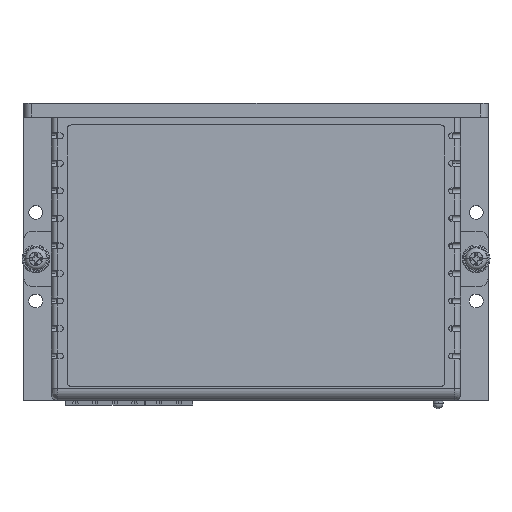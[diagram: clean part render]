
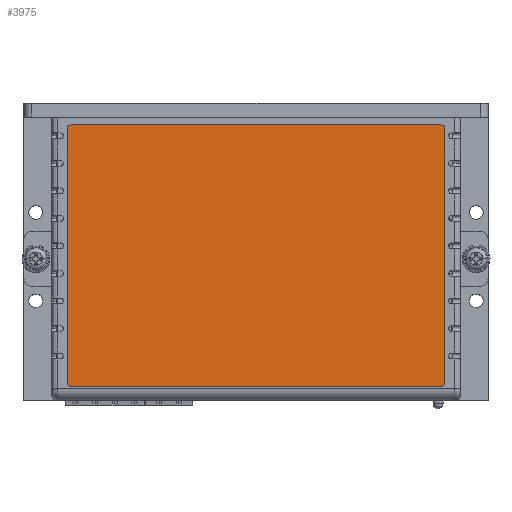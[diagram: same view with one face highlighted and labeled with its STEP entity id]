
A CAD part, top view. The second image highlights one B-rep face of the part: STEP entity #3975.
In plain terms, the highlighted planar face has unit normal (0, 0, 1).
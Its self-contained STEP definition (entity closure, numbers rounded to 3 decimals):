
#662 = ORIENTED_EDGE ( 'NONE', *, *, #26018, .F. ) ;
#3214 = CARTESIAN_POINT ( 'NONE',  ( 48., 4.5, 21.8 ) ) ;
#3631 = AXIS2_PLACEMENT_3D ( 'NONE', #92336, #43779, #100467 ) ;
#3975 = ADVANCED_FACE ( 'NONE', ( #76252 ), #59537, .T. ) ;
#10839 = DIRECTION ( 'NONE',  ( 0., 1., 0. ) ) ;
#10998 = VECTOR ( 'NONE', #93904, 1000. ) ;
#15059 = EDGE_CURVE ( 'NONE', #52306, #79450, #60327, .T. ) ;
#18932 = DIRECTION ( 'NONE',  ( 0., 0., -1. ) ) ;
#20909 = VERTEX_POINT ( 'NONE', #54728 ) ;
#21031 = DIRECTION ( 'NONE',  ( 0., 0., -1. ) ) ;
#26018 = EDGE_CURVE ( 'NONE', #61083, #91378, #102440, .T. ) ;
#27587 = CARTESIAN_POINT ( 'NONE',  ( -48., 36.75, 21.8 ) ) ;
#28241 = CARTESIAN_POINT ( 'NONE',  ( -48., 4.5, 21.8 ) ) ;
#28453 = CARTESIAN_POINT ( 'NONE',  ( -47., 3.5, 21.8 ) ) ;
#32589 = EDGE_LOOP ( 'NONE', ( #44257, #662, #70376, #65006, #54889, #67747, #95634, #55663 ) ) ;
#34205 = CARTESIAN_POINT ( 'NONE',  ( -47., 70., 21.8 ) ) ;
#35574 = DIRECTION ( 'NONE',  ( 0., 0., 1. ) ) ;
#35901 = CARTESIAN_POINT ( 'NONE',  ( 47., 69., 21.8 ) ) ;
#38283 = CARTESIAN_POINT ( 'NONE',  ( 47., 3.5, 21.8 ) ) ;
#38948 = CIRCLE ( 'NONE', #92766, 1. ) ;
#43618 = CARTESIAN_POINT ( 'NONE',  ( 0., 70., 21.8 ) ) ;
#43779 = DIRECTION ( 'NONE',  ( 0., 0., -1. ) ) ;
#43848 = EDGE_CURVE ( 'NONE', #91378, #62865, #50826, .T. ) ;
#44155 = DIRECTION ( 'NONE',  ( -1., 0., 0. ) ) ;
#44257 = ORIENTED_EDGE ( 'NONE', *, *, #43848, .F. ) ;
#45875 = CIRCLE ( 'NONE', #3631, 1. ) ;
#46466 = LINE ( 'NONE', #54761, #65564 ) ;
#50826 = LINE ( 'NONE', #43618, #72417 ) ;
#52306 = VERTEX_POINT ( 'NONE', #28453 ) ;
#54728 = CARTESIAN_POINT ( 'NONE',  ( 48., 69., 21.8 ) ) ;
#54761 = CARTESIAN_POINT ( 'NONE',  ( 0., 3.5, 21.8 ) ) ;
#54889 = ORIENTED_EDGE ( 'NONE', *, *, #74952, .F. ) ;
#55663 = ORIENTED_EDGE ( 'NONE', *, *, #101507, .F. ) ;
#58613 = EDGE_CURVE ( 'NONE', #79450, #61083, #67163, .T. ) ;
#59537 = PLANE ( 'NONE',  #92845 ) ;
#60327 = CIRCLE ( 'NONE', #60957, 1. ) ;
#60957 = AXIS2_PLACEMENT_3D ( 'NONE', #69873, #21031, #78023 ) ;
#61083 = VERTEX_POINT ( 'NONE', #105547 ) ;
#62865 = VERTEX_POINT ( 'NONE', #83303 ) ;
#64597 = VECTOR ( 'NONE', #10839, 1000. ) ;
#65006 = ORIENTED_EDGE ( 'NONE', *, *, #15059, .F. ) ;
#65515 = VERTEX_POINT ( 'NONE', #3214 ) ;
#65564 = VECTOR ( 'NONE', #71092, 1000. ) ;
#67084 = AXIS2_PLACEMENT_3D ( 'NONE', #67839, #18932, #75985 ) ;
#67163 = LINE ( 'NONE', #27587, #64597 ) ;
#67747 = ORIENTED_EDGE ( 'NONE', *, *, #78615, .F. ) ;
#67839 = CARTESIAN_POINT ( 'NONE',  ( -47., 69., 21.8 ) ) ;
#69873 = CARTESIAN_POINT ( 'NONE',  ( -47., 4.5, 21.8 ) ) ;
#70376 = ORIENTED_EDGE ( 'NONE', *, *, #58613, .F. ) ;
#71092 = DIRECTION ( 'NONE',  ( -1., 0., 0. ) ) ;
#72417 = VECTOR ( 'NONE', #92518, 1000. ) ;
#74952 = EDGE_CURVE ( 'NONE', #84764, #52306, #46466, .T. ) ;
#75985 = DIRECTION ( 'NONE',  ( -1., 0., 0. ) ) ;
#76252 = FACE_OUTER_BOUND ( 'NONE', #32589, .T. ) ;
#78023 = DIRECTION ( 'NONE',  ( -1., 0., 0. ) ) ;
#78615 = EDGE_CURVE ( 'NONE', #65515, #84764, #45875, .T. ) ;
#78628 = LINE ( 'NONE', #93546, #10998 ) ;
#79450 = VERTEX_POINT ( 'NONE', #28241 ) ;
#83303 = CARTESIAN_POINT ( 'NONE',  ( 47., 70., 21.8 ) ) ;
#84347 = CARTESIAN_POINT ( 'NONE',  ( -48.96, 2.828, 21.8 ) ) ;
#84764 = VERTEX_POINT ( 'NONE', #38283 ) ;
#85028 = EDGE_CURVE ( 'NONE', #20909, #65515, #78628, .T. ) ;
#91378 = VERTEX_POINT ( 'NONE', #34205 ) ;
#92336 = CARTESIAN_POINT ( 'NONE',  ( 47., 4.5, 21.8 ) ) ;
#92390 = DIRECTION ( 'NONE',  ( 1., 0., 0. ) ) ;
#92518 = DIRECTION ( 'NONE',  ( 1., 0., 0. ) ) ;
#92715 = DIRECTION ( 'NONE',  ( 0., 0., -1. ) ) ;
#92766 = AXIS2_PLACEMENT_3D ( 'NONE', #35901, #92715, #44155 ) ;
#92845 = AXIS2_PLACEMENT_3D ( 'NONE', #84347, #35574, #92390 ) ;
#93546 = CARTESIAN_POINT ( 'NONE',  ( 48., 36.75, 21.8 ) ) ;
#93904 = DIRECTION ( 'NONE',  ( 0., -1., 0. ) ) ;
#95634 = ORIENTED_EDGE ( 'NONE', *, *, #85028, .F. ) ;
#100467 = DIRECTION ( 'NONE',  ( -1., 0., 0. ) ) ;
#101507 = EDGE_CURVE ( 'NONE', #62865, #20909, #38948, .T. ) ;
#102440 = CIRCLE ( 'NONE', #67084, 1. ) ;
#105547 = CARTESIAN_POINT ( 'NONE',  ( -48., 69., 21.8 ) ) ;
